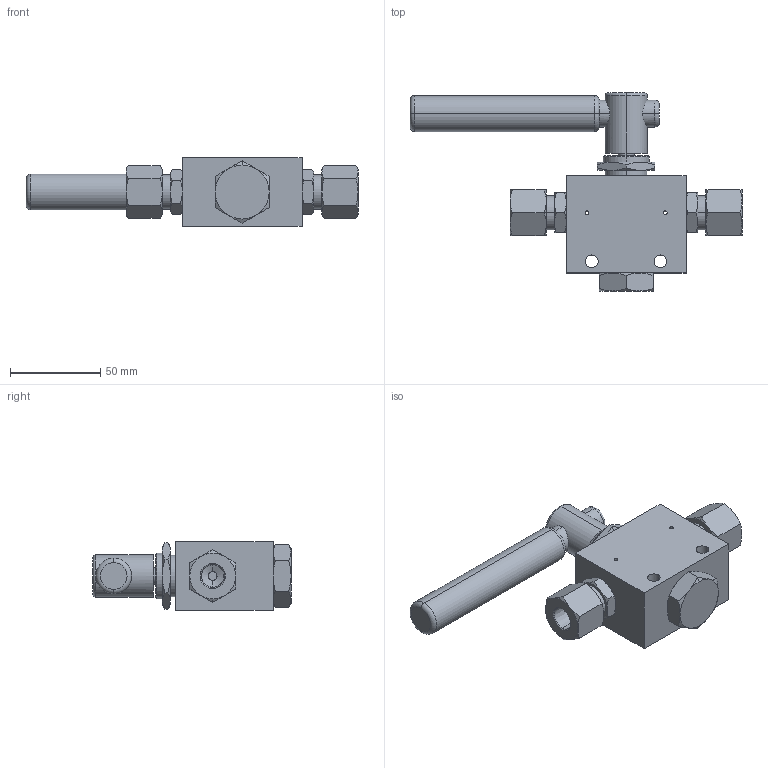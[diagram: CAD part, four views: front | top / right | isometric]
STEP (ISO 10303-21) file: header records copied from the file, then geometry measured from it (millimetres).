
FILE_DESCRIPTION (( 'STEP AP203' ), '1' );
FILE_NAME ('BVP03S04-2-90.STEP', '2022-04-12T10:46:04', ( '' ), ( '' ), 'SwSTEP 2.0', 'SolidWorks 2020', '' );
FILE_SCHEMA (( 'CONFIG_CONTROL_DESIGN' ));
Length unit declared in the file: millimetre
Products named in the file (1): BVP03S04-2-90
Bounding box: 184.33 x 110 x 38 mm (x, y, z)
Volume: 222549.3 mm3; surface area: 39504.7 mm2
Topology: 1 solids, 1 shells, 202 faces, 440 edges, 254 vertices
Faces by surface type: cone 102, plane 58, cylinder 34, torus 8
Entity records: 6181 total; most frequent: CARTESIAN_POINT 1881, ORIENTED_EDGE 872, DIRECTION 870, EDGE_CURVE 436, AXIS2_PLACEMENT_3D 379, VERTEX_POINT 254, EDGE_LOOP 228, FACE_OUTER_BOUND 202
